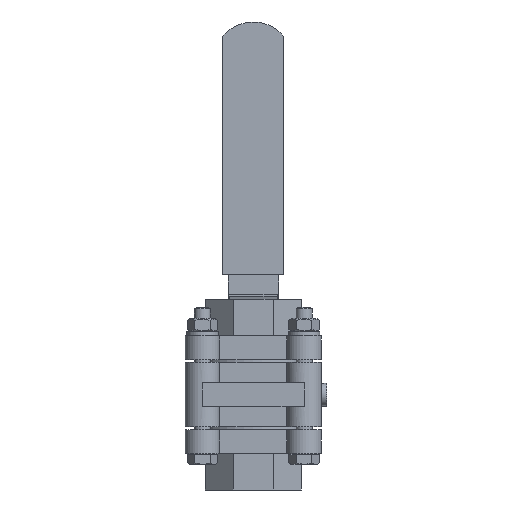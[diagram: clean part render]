
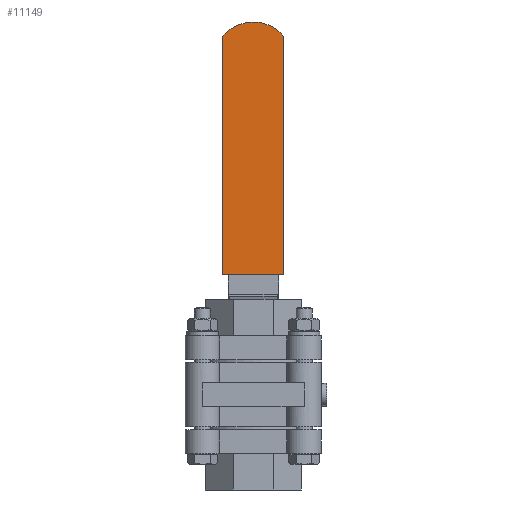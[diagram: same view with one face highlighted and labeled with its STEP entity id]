
A CAD part, front view. The second image highlights one B-rep face of the part: STEP entity #11149.
In plain terms, the highlighted planar face has unit normal (0, -1, 0).
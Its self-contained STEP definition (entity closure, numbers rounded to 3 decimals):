
#526=PLANE('',#11938);
#1166=FACE_OUTER_BOUND('',#1812,.T.);
#1812=EDGE_LOOP('',(#8307,#8308,#8309,#8310));
#2501=CIRCLE('',#11936,15.);
#3148=LINE('',#16863,#4096);
#3150=LINE('',#16867,#4098);
#3151=LINE('',#16868,#4099);
#4096=VECTOR('',#13621,10.);
#4098=VECTOR('',#13625,10.);
#4099=VECTOR('',#13626,10.);
#5073=VERTEX_POINT('',#16856);
#5074=VERTEX_POINT('',#16857);
#5075=VERTEX_POINT('',#16862);
#5076=VERTEX_POINT('',#16866);
#6296=EDGE_CURVE('',#5073,#5074,#2501,.T.);
#6299=EDGE_CURVE('',#5075,#5073,#3148,.T.);
#6301=EDGE_CURVE('',#5076,#5074,#3150,.T.);
#6302=EDGE_CURVE('',#5075,#5076,#3151,.T.);
#8307=ORIENTED_EDGE('',*,*,#6296,.T.);
#8308=ORIENTED_EDGE('',*,*,#6301,.F.);
#8309=ORIENTED_EDGE('',*,*,#6302,.F.);
#8310=ORIENTED_EDGE('',*,*,#6299,.T.);
#11149=ADVANCED_FACE('',(#1166),#526,.T.);
#11936=AXIS2_PLACEMENT_3D('',#16858,#13615,#13616);
#11938=AXIS2_PLACEMENT_3D('',#16865,#13623,#13624);
#13615=DIRECTION('center_axis',(0.,-1.,0.));
#13616=DIRECTION('ref_axis',(-0.767,0.,0.642));
#13621=DIRECTION('',(0.,0.,1.));
#13623=DIRECTION('center_axis',(0.,-1.,0.));
#13624=DIRECTION('ref_axis',(1.,0.,0.));
#13625=DIRECTION('',(0.,0.,1.));
#13626=DIRECTION('',(-1.,0.,0.));
#16856=CARTESIAN_POINT('',(13.376,60.888,134.631));
#16857=CARTESIAN_POINT('',(-9.624,60.888,134.631));
#16858=CARTESIAN_POINT('Origin',(1.876,60.888,125.));
#16862=CARTESIAN_POINT('',(13.376,60.888,45.));
#16863=CARTESIAN_POINT('',(13.376,60.888,45.));
#16865=CARTESIAN_POINT('Origin',(-9.624,60.888,45.));
#16866=CARTESIAN_POINT('',(-9.624,60.888,45.));
#16867=CARTESIAN_POINT('',(-9.624,60.888,45.));
#16868=CARTESIAN_POINT('',(13.376,60.888,45.));
